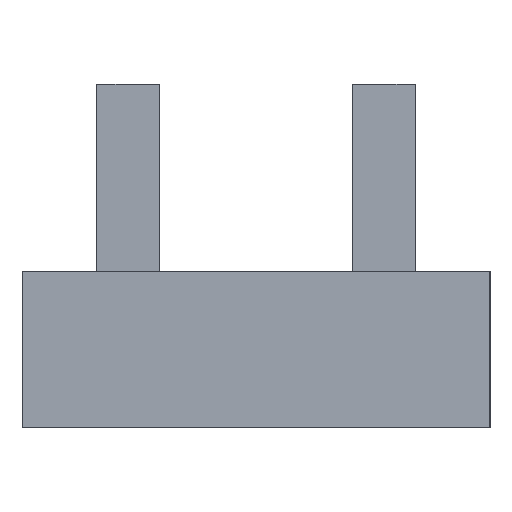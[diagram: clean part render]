
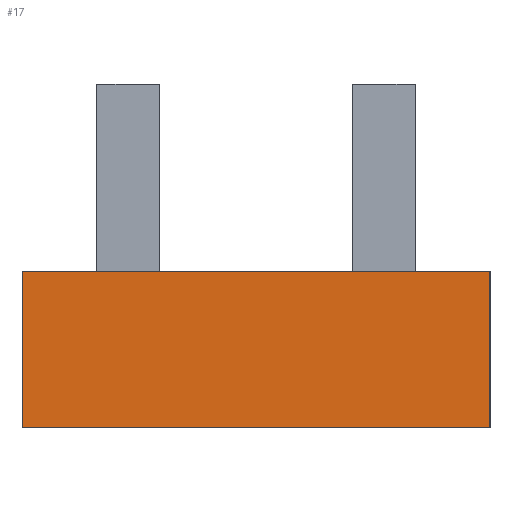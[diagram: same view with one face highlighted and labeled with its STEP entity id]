
A CAD part, left-side view. The second image highlights one B-rep face of the part: STEP entity #17.
In plain terms, the highlighted planar face has unit normal (-1, 0, 0).
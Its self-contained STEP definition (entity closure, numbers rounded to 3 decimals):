
#17 = ADVANCED_FACE('',(#18),#32,.F.);
#18 = FACE_BOUND('',#19,.F.);
#19 = EDGE_LOOP('',(#20,#55,#83,#111));
#20 = ORIENTED_EDGE('',*,*,#21,.F.);
#21 = EDGE_CURVE('',#22,#24,#26,.T.);
#22 = VERTEX_POINT('',#23);
#23 = CARTESIAN_POINT('',(0.,0.,0.));
#24 = VERTEX_POINT('',#25);
#25 = CARTESIAN_POINT('',(0.,0.,10.));
#26 = SURFACE_CURVE('',#27,(#31,#43),.PCURVE_S1.);
#27 = LINE('',#28,#29);
#28 = CARTESIAN_POINT('',(0.,0.,0.));
#29 = VECTOR('',#30,1.);
#30 = DIRECTION('',(0.,0.,1.));
#31 = PCURVE('',#32,#37);
#32 = PLANE('',#33);
#33 = AXIS2_PLACEMENT_3D('',#34,#35,#36);
#34 = CARTESIAN_POINT('',(0.,0.,0.));
#35 = DIRECTION('',(1.,0.,-0.));
#36 = DIRECTION('',(0.,0.,1.));
#37 = DEFINITIONAL_REPRESENTATION('',(#38),#42);
#38 = LINE('',#39,#40);
#39 = CARTESIAN_POINT('',(0.,0.));
#40 = VECTOR('',#41,1.);
#41 = DIRECTION('',(1.,0.));
#42 = ( GEOMETRIC_REPRESENTATION_CONTEXT(2) 
PARAMETRIC_REPRESENTATION_CONTEXT() REPRESENTATION_CONTEXT('2D SPACE',''
  ) );
#43 = PCURVE('',#44,#49);
#44 = PLANE('',#45);
#45 = AXIS2_PLACEMENT_3D('',#46,#47,#48);
#46 = CARTESIAN_POINT('',(0.,0.,0.));
#47 = DIRECTION('',(-0.,1.,0.));
#48 = DIRECTION('',(0.,0.,1.));
#49 = DEFINITIONAL_REPRESENTATION('',(#50),#54);
#50 = LINE('',#51,#52);
#51 = CARTESIAN_POINT('',(0.,0.));
#52 = VECTOR('',#53,1.);
#53 = DIRECTION('',(1.,0.));
#54 = ( GEOMETRIC_REPRESENTATION_CONTEXT(2) 
PARAMETRIC_REPRESENTATION_CONTEXT() REPRESENTATION_CONTEXT('2D SPACE',''
  ) );
#55 = ORIENTED_EDGE('',*,*,#56,.T.);
#56 = EDGE_CURVE('',#22,#57,#59,.T.);
#57 = VERTEX_POINT('',#58);
#58 = CARTESIAN_POINT('',(0.,30.,0.));
#59 = SURFACE_CURVE('',#60,(#64,#71),.PCURVE_S1.);
#60 = LINE('',#61,#62);
#61 = CARTESIAN_POINT('',(0.,0.,0.));
#62 = VECTOR('',#63,1.);
#63 = DIRECTION('',(-0.,1.,0.));
#64 = PCURVE('',#32,#65);
#65 = DEFINITIONAL_REPRESENTATION('',(#66),#70);
#66 = LINE('',#67,#68);
#67 = CARTESIAN_POINT('',(0.,0.));
#68 = VECTOR('',#69,1.);
#69 = DIRECTION('',(0.,-1.));
#70 = ( GEOMETRIC_REPRESENTATION_CONTEXT(2) 
PARAMETRIC_REPRESENTATION_CONTEXT() REPRESENTATION_CONTEXT('2D SPACE',''
  ) );
#71 = PCURVE('',#72,#77);
#72 = PLANE('',#73);
#73 = AXIS2_PLACEMENT_3D('',#74,#75,#76);
#74 = CARTESIAN_POINT('',(0.,0.,0.));
#75 = DIRECTION('',(0.,0.,1.));
#76 = DIRECTION('',(1.,0.,-0.));
#77 = DEFINITIONAL_REPRESENTATION('',(#78),#82);
#78 = LINE('',#79,#80);
#79 = CARTESIAN_POINT('',(0.,0.));
#80 = VECTOR('',#81,1.);
#81 = DIRECTION('',(0.,1.));
#82 = ( GEOMETRIC_REPRESENTATION_CONTEXT(2) 
PARAMETRIC_REPRESENTATION_CONTEXT() REPRESENTATION_CONTEXT('2D SPACE',''
  ) );
#83 = ORIENTED_EDGE('',*,*,#84,.T.);
#84 = EDGE_CURVE('',#57,#85,#87,.T.);
#85 = VERTEX_POINT('',#86);
#86 = CARTESIAN_POINT('',(0.,30.,10.));
#87 = SURFACE_CURVE('',#88,(#92,#99),.PCURVE_S1.);
#88 = LINE('',#89,#90);
#89 = CARTESIAN_POINT('',(0.,30.,0.));
#90 = VECTOR('',#91,1.);
#91 = DIRECTION('',(0.,0.,1.));
#92 = PCURVE('',#32,#93);
#93 = DEFINITIONAL_REPRESENTATION('',(#94),#98);
#94 = LINE('',#95,#96);
#95 = CARTESIAN_POINT('',(0.,-30.));
#96 = VECTOR('',#97,1.);
#97 = DIRECTION('',(1.,0.));
#98 = ( GEOMETRIC_REPRESENTATION_CONTEXT(2) 
PARAMETRIC_REPRESENTATION_CONTEXT() REPRESENTATION_CONTEXT('2D SPACE',''
  ) );
#99 = PCURVE('',#100,#105);
#100 = PLANE('',#101);
#101 = AXIS2_PLACEMENT_3D('',#102,#103,#104);
#102 = CARTESIAN_POINT('',(0.,30.,0.));
#103 = DIRECTION('',(-0.,1.,0.));
#104 = DIRECTION('',(0.,0.,1.));
#105 = DEFINITIONAL_REPRESENTATION('',(#106),#110);
#106 = LINE('',#107,#108);
#107 = CARTESIAN_POINT('',(0.,0.));
#108 = VECTOR('',#109,1.);
#109 = DIRECTION('',(1.,0.));
#110 = ( GEOMETRIC_REPRESENTATION_CONTEXT(2) 
PARAMETRIC_REPRESENTATION_CONTEXT() REPRESENTATION_CONTEXT('2D SPACE',''
  ) );
#111 = ORIENTED_EDGE('',*,*,#112,.F.);
#112 = EDGE_CURVE('',#24,#85,#113,.T.);
#113 = SURFACE_CURVE('',#114,(#118,#125),.PCURVE_S1.);
#114 = LINE('',#115,#116);
#115 = CARTESIAN_POINT('',(0.,0.,10.));
#116 = VECTOR('',#117,1.);
#117 = DIRECTION('',(-0.,1.,0.));
#118 = PCURVE('',#32,#119);
#119 = DEFINITIONAL_REPRESENTATION('',(#120),#124);
#120 = LINE('',#121,#122);
#121 = CARTESIAN_POINT('',(10.,0.));
#122 = VECTOR('',#123,1.);
#123 = DIRECTION('',(0.,-1.));
#124 = ( GEOMETRIC_REPRESENTATION_CONTEXT(2) 
PARAMETRIC_REPRESENTATION_CONTEXT() REPRESENTATION_CONTEXT('2D SPACE',''
  ) );
#125 = PCURVE('',#126,#131);
#126 = PLANE('',#127);
#127 = AXIS2_PLACEMENT_3D('',#128,#129,#130);
#128 = CARTESIAN_POINT('',(0.,0.,10.));
#129 = DIRECTION('',(0.,0.,1.));
#130 = DIRECTION('',(1.,0.,-0.));
#131 = DEFINITIONAL_REPRESENTATION('',(#132),#136);
#132 = LINE('',#133,#134);
#133 = CARTESIAN_POINT('',(0.,0.));
#134 = VECTOR('',#135,1.);
#135 = DIRECTION('',(0.,1.));
#136 = ( GEOMETRIC_REPRESENTATION_CONTEXT(2) 
PARAMETRIC_REPRESENTATION_CONTEXT() REPRESENTATION_CONTEXT('2D SPACE',''
  ) );
